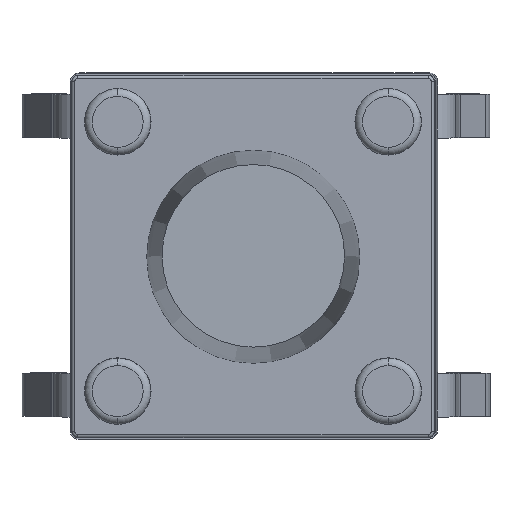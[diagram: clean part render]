
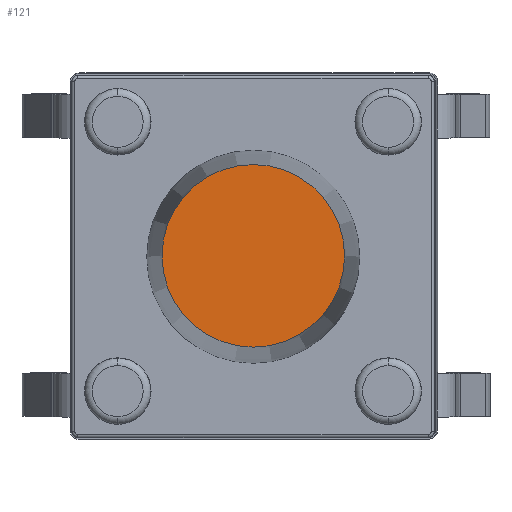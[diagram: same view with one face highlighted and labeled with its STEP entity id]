
A CAD part, top view. The second image highlights one B-rep face of the part: STEP entity #121.
In plain terms, the highlighted planar face has unit normal (0, 0, 1).
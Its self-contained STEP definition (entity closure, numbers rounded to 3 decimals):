
#58 = CONICAL_SURFACE('',#59,1.75,0.03);
#59 = AXIS2_PLACEMENT_3D('',#60,#61,#62);
#60 = CARTESIAN_POINT('',(-6.025,-0.033,3.65));
#61 = DIRECTION('',(-0.,-0.,-1.));
#62 = DIRECTION('',(1.,0.,0.));
#75 = VERTEX_POINT('',#76);
#76 = CARTESIAN_POINT('',(-4.525,-0.033,11.95));
#94 = EDGE_CURVE('',#75,#75,#95,.T.);
#95 = SURFACE_CURVE('',#96,(#101,#108),.PCURVE_S1.);
#96 = CIRCLE('',#97,1.5);
#97 = AXIS2_PLACEMENT_3D('',#98,#99,#100);
#98 = CARTESIAN_POINT('',(-6.025,-0.033,11.95));
#99 = DIRECTION('',(0.,0.,1.));
#100 = DIRECTION('',(1.,0.,0.));
#101 = PCURVE('',#58,#102);
#102 = DEFINITIONAL_REPRESENTATION('',(#103),#107);
#103 = LINE('',#104,#105);
#104 = CARTESIAN_POINT('',(-0.,-8.3));
#105 = VECTOR('',#106,1.);
#106 = DIRECTION('',(-1.,-0.));
#107 = ( GEOMETRIC_REPRESENTATION_CONTEXT(2) 
PARAMETRIC_REPRESENTATION_CONTEXT() REPRESENTATION_CONTEXT('2D SPACE',''
  ) );
#108 = PCURVE('',#109,#114);
#109 = PLANE('',#110);
#110 = AXIS2_PLACEMENT_3D('',#111,#112,#113);
#111 = CARTESIAN_POINT('',(-6.025,-0.033,11.95));
#112 = DIRECTION('',(0.,0.,1.));
#113 = DIRECTION('',(1.,0.,0.));
#114 = DEFINITIONAL_REPRESENTATION('',(#115),#119);
#115 = CIRCLE('',#116,1.5);
#116 = AXIS2_PLACEMENT_2D('',#117,#118);
#117 = CARTESIAN_POINT('',(0.,0.));
#118 = DIRECTION('',(1.,0.));
#119 = ( GEOMETRIC_REPRESENTATION_CONTEXT(2) 
PARAMETRIC_REPRESENTATION_CONTEXT() REPRESENTATION_CONTEXT('2D SPACE',''
  ) );
#121 = ADVANCED_FACE('',(#122),#109,.T.);
#122 = FACE_BOUND('',#123,.T.);
#123 = EDGE_LOOP('',(#124));
#124 = ORIENTED_EDGE('',*,*,#94,.T.);
